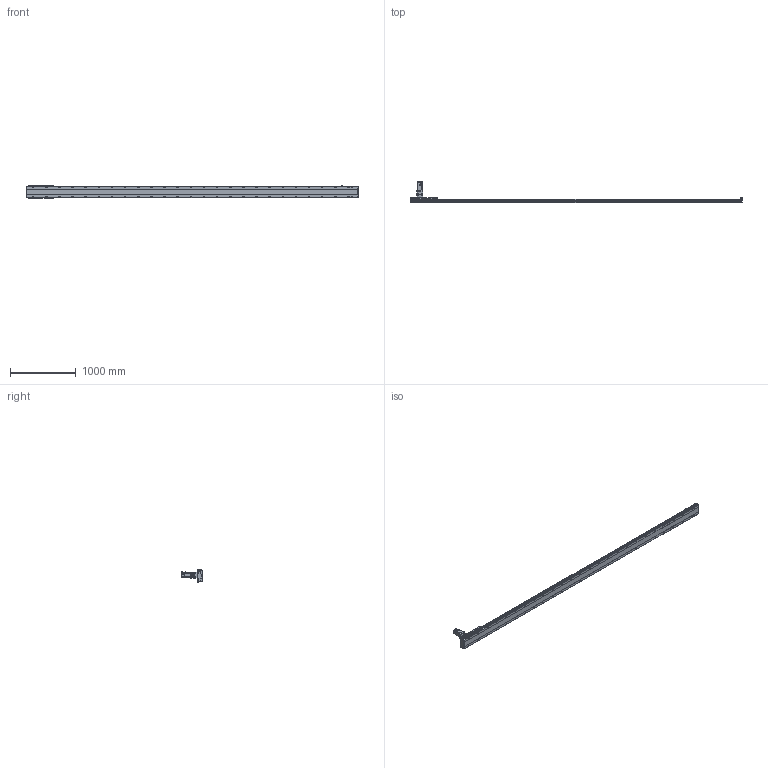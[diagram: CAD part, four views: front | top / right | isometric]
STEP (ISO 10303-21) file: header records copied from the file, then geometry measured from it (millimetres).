
FILE_DESCRIPTION(/* description */ ('STEP AP203'),/* implementation_level */ '2;1');
FILE_NAME(/* name */ 'SHS17A-L13-S4600-BC-T75-C1-N(0)',/* time_stamp */ '2023-03-27T08:59:14+02:00',/* author */ ('License CC BY-ND 4.0'),/* organization */ ('CADENAS'),/* preprocessor_version */ 'ST-DEVELOPER v19.3',/* originating_system */ 'PARTsolutions',/* authorisation */ ' ');
FILE_SCHEMA (('CONFIG_CONTROL_DESIGN'));
Length unit declared in the file: millimetre
Products named in the file (7): SHS17A-L13-S4600-BC-T75-C1-N(0); PSC140-sensor; SHS17A-S4600(0)_body2; T75-p1; SHS17A-S4600_body3; SHS17A-S4600-C1(0)_slider; SHS17A-S4600-C1(0)_body
Assembly tree (13 placements, depth 2):
  SHS17A-L13-S4600-BC-T75-C1-N(0)
    PSC140-sensor  x3
    SHS17A-S4600(0)_body2  x6
    T75-p1
    SHS17A-S4600_body3
    SHS17A-S4600-C1(0)_slider
    SHS17A-S4600-C1(0)_body
Bounding box: 5054 x 333.8 x 193.4 mm (x, y, z)
Volume: 34054261 mm3; surface area: 3889686.1 mm2
Topology: 13 solids, 13 shells, 2488 faces, 6361 edges, 4140 vertices
Faces by surface type: plane 1507, cylinder 872, cone 106, torus 3
Full cylindrical faces by diameter (mm): 2.8 x3, 4.134 x24, 4.5 x2, 4.6 x3, 4.917 x15, 5.5 x48, 6 x7, 6.5 x24, 6.647 x60, 6.8 x9, 8 x3, 8.5 x52, 10 x28, 11 x4, 14 x52, 22 x1, 24 x1, 24.2 x1, 28 x1, 28.2 x1, 28.8 x1, 29.8 x1, 48.542 x1, 68 x1, 70 x1, 78 x1, 80 x2
Entity records: 51640 total; most frequent: CARTESIAN_POINT 10468, DIRECTION 8323, ORIENTED_EDGE 8092, EDGE_CURVE 4046, AXIS2_PLACEMENT_3D 2990, VERTEX_POINT 2851, EDGE_LOOP 2423, FACE_BOUND 2423
